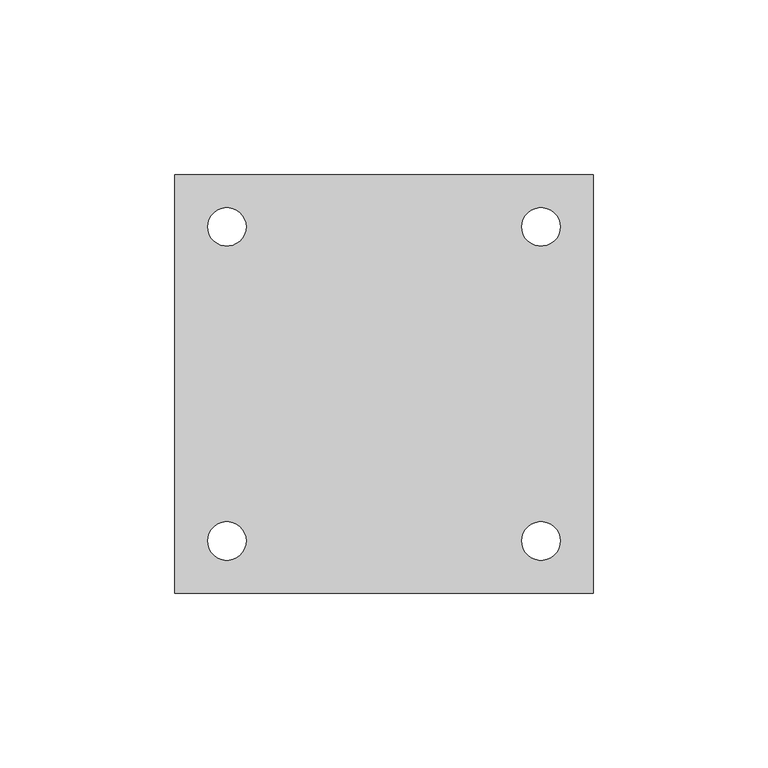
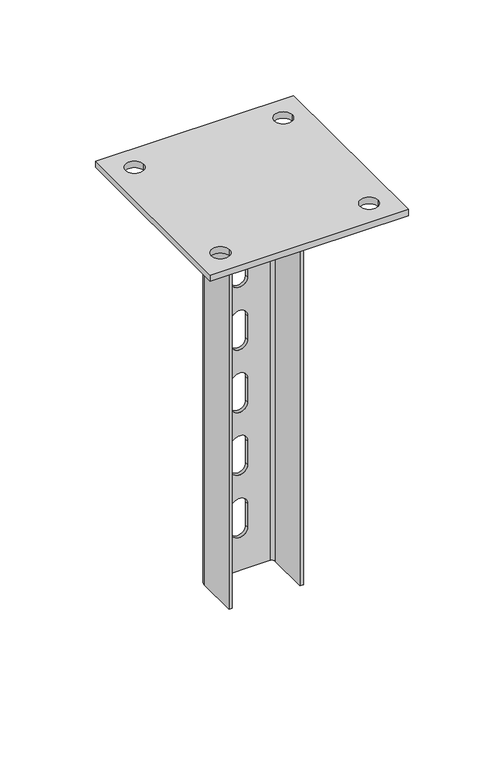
"""IFC4 building model written with IfcOpenShell, lengths in millimetres: proxy geometry, КМ Профиль_Стойка потолочная усиленная PSTU : PSTU250."""

from ifc_helpers import new_model, si_unit, point, frame, frame_2d, origin, place, context, project, spatial, polyline, circle_curve, trimmed, segment, composite_curve, outline, extrude, source, transform, mapped, element, save
from ifc_brep_helpers import plane_surface, cylinder_surface, revolved_surface, advanced_brep


def generic_models_40aa2584(model_context):
    return source(origin(), model_context, "Body", "SolidModel", [
        advanced_brep(
        [(22.5, -15.0, -4.0), (22.5, 11.0, -4.0), (18.5, 15.0, -4.0), (-18.5, 15.0, -4.0), (-22.5, 11.0, -4.0), (-22.5, -15.0, -4.0), (-20.5, -15.0, -4.0), (-20.5, 11.0, -4.0), (-18.5, 13.0, -4.0), (18.5, 13.0, -4.0), (20.5, 11.0, -4.0), (20.5, -15.0, -4.0), (22.5, 11.0, -254.0), (22.5, -15.0, -254.0), (20.5, -15.0, -254.0), (20.5, 11.0, -254.0), (18.5, 13.0, -254.0), (-18.5, 13.0, -254.0), (-20.5, 11.0, -254.0), (-20.5, -15.0, -254.0), (-22.5, -15.0, -254.0), (-22.5, 11.0, -254.0), (-18.5, 15.0, -254.0), (18.5, 15.0, -254.0), (-5.0, 15.0, -53.0), (-5.0, 15.0, -68.0), (5.0, 15.0, -68.0), (5.0, 15.0, -53.0), (-5.0, 15.0, -93.0), (-5.0, 15.0, -108.0), (5.0, 15.0, -108.0), (5.0, 15.0, -93.0), (-5.0, 15.0, -133.0), (-5.0, 15.0, -148.0), (5.0, 15.0, -148.0), (5.0, 15.0, -133.0), (-5.0, 15.0, -173.0), (-5.0, 15.0, -188.0), (5.0, 15.0, -188.0), (5.0, 15.0, -173.0), (-5.0, 15.0, -213.0), (-5.0, 15.0, -228.0), (5.0, 15.0, -228.0), (5.0, 15.0, -213.0), (-5.0, 15.0, -13.0), (-5.0, 15.0, -28.0), (5.0, 15.0, -28.0), (5.0, 15.0, -13.0), (-5.0, 13.0, -68.0), (-5.0, 13.0, -53.0), (5.0, 13.0, -53.0), (5.0, 13.0, -68.0), (-5.0, 13.0, -108.0), (-5.0, 13.0, -93.0), (5.0, 13.0, -93.0), (5.0, 13.0, -108.0), (-5.0, 13.0, -148.0), (-5.0, 13.0, -133.0), (5.0, 13.0, -133.0), (5.0, 13.0, -148.0), (-5.0, 13.0, -188.0), (-5.0, 13.0, -173.0), (5.0, 13.0, -173.0), (5.0, 13.0, -188.0), (-5.0, 13.0, -228.0), (-5.0, 13.0, -213.0), (5.0, 13.0, -213.0), (5.0, 13.0, -228.0), (-5.0, 13.0, -28.0), (-5.0, 13.0, -13.0), (5.0, 13.0, -13.0), (5.0, 13.0, -28.0)],
        [
            (0, 1),
            (1, 2, circle_curve(frame((18.5, 11.0, -4.0), z_axis=(0.0, 0.0, 1.0), x_axis=(1.0, 0.0, 0.0)), 4.0)),
            (2, 3),
            (3, 4, circle_curve(frame((-18.5, 11.0, -4.0), z_axis=(0.0, 0.0, 1.0), x_axis=(1.0, 0.0, 0.0)), 4.0)),
            (4, 5),
            (5, 6),
            (6, 7),
            (7, 8, circle_curve(frame((-18.5, 11.0, -4.0), z_axis=(0.0, 0.0, -1.0), x_axis=(1.0, 0.0, 0.0)), 2.0)),
            (8, 9),
            (9, 10, circle_curve(frame((18.5, 11.0, -4.0), z_axis=(0.0, 0.0, -1.0), x_axis=(1.0, 0.0, 0.0)), 2.0)),
            (10, 11),
            (11, 0),
            (12, 13),
            (13, 14),
            (14, 15),
            (15, 16, circle_curve(frame((18.5, 11.0, -254.0), z_axis=(0.0, 0.0, 1.0), x_axis=(1.0, 0.0, 0.0)), 2.0)),
            (16, 17),
            (17, 18, circle_curve(frame((-18.5, 11.0, -254.0), z_axis=(0.0, 0.0, 1.0), x_axis=(1.0, 0.0, 0.0)), 2.0)),
            (18, 19),
            (19, 20),
            (20, 21),
            (21, 22, circle_curve(frame((-18.5, 11.0, -254.0), z_axis=(0.0, 0.0, -1.0), x_axis=(1.0, 0.0, 0.0)), 4.0)),
            (22, 23),
            (23, 12, circle_curve(frame((18.5, 11.0, -254.0), z_axis=(0.0, 0.0, -1.0), x_axis=(1.0, 0.0, 0.0)), 4.0)),
            (0, 13),
            (12, 1),
            (23, 2),
            (22, 3),
            (24, 25),
            (25, 26, circle_curve(frame((0.0, 15.0, -68.0), z_axis=(0.0, -1.0, 0.0), x_axis=(0.0, 0.0, -1.0)), 5.0)),
            (26, 27),
            (27, 24, circle_curve(frame((0.0, 15.0, -53.0), z_axis=(0.0, -1.0, 0.0), x_axis=(0.0, 0.0, -1.0)), 5.0)),
            (28, 29),
            (29, 30, circle_curve(frame((0.0, 15.0, -108.0), z_axis=(0.0, -1.0, 0.0), x_axis=(0.0, 0.0, -1.0)), 5.0)),
            (30, 31),
            (31, 28, circle_curve(frame((0.0, 15.0, -93.0), z_axis=(0.0, -1.0, 0.0), x_axis=(0.0, 0.0, -1.0)), 5.0)),
            (32, 33),
            (33, 34, circle_curve(frame((0.0, 15.0, -148.0), z_axis=(0.0, -1.0, 0.0), x_axis=(0.0, 0.0, -1.0)), 5.0)),
            (34, 35),
            (35, 32, circle_curve(frame((0.0, 15.0, -133.0), z_axis=(0.0, -1.0, 0.0), x_axis=(0.0, 0.0, -1.0)), 5.0)),
            (36, 37),
            (37, 38, circle_curve(frame((0.0, 15.0, -188.0), z_axis=(0.0, -1.0, 0.0), x_axis=(0.0, 0.0, -1.0)), 5.0)),
            (38, 39),
            (39, 36, circle_curve(frame((0.0, 15.0, -173.0), z_axis=(0.0, -1.0, 0.0), x_axis=(0.0, 0.0, -1.0)), 5.0)),
            (40, 41),
            (41, 42, circle_curve(frame((0.0, 15.0, -228.0), z_axis=(0.0, -1.0, 0.0), x_axis=(0.0, 0.0, -1.0)), 5.0)),
            (42, 43),
            (43, 40, circle_curve(frame((0.0, 15.0, -213.0), z_axis=(0.0, -1.0, 0.0), x_axis=(0.0, 0.0, -1.0)), 5.0)),
            (44, 45),
            (45, 46, circle_curve(frame((0.0, 15.0, -28.0), z_axis=(0.0, -1.0, 0.0), x_axis=(0.0, 0.0, -1.0)), 5.0)),
            (46, 47),
            (47, 44, circle_curve(frame((0.0, 15.0, -13.0), z_axis=(0.0, -1.0, 0.0), x_axis=(0.0, 0.0, -1.0)), 5.0)),
            (21, 4),
            (20, 5),
            (19, 6),
            (18, 7),
            (17, 8),
            (16, 9),
            (48, 49),
            (49, 50, circle_curve(frame((0.0, 13.0, -53.0), z_axis=(0.0, 1.0, 0.0), x_axis=(0.0, 0.0, -1.0)), 5.0)),
            (50, 51),
            (51, 48, circle_curve(frame((0.0, 13.0, -68.0), z_axis=(0.0, 1.0, 0.0), x_axis=(0.0, 0.0, -1.0)), 5.0)),
            (52, 53),
            (53, 54, circle_curve(frame((0.0, 13.0, -93.0), z_axis=(0.0, 1.0, 0.0), x_axis=(0.0, 0.0, -1.0)), 5.0)),
            (54, 55),
            (55, 52, circle_curve(frame((0.0, 13.0, -108.0), z_axis=(0.0, 1.0, 0.0), x_axis=(0.0, 0.0, -1.0)), 5.0)),
            (56, 57),
            (57, 58, circle_curve(frame((0.0, 13.0, -133.0), z_axis=(0.0, 1.0, 0.0), x_axis=(0.0, 0.0, -1.0)), 5.0)),
            (58, 59),
            (59, 56, circle_curve(frame((0.0, 13.0, -148.0), z_axis=(0.0, 1.0, 0.0), x_axis=(0.0, 0.0, -1.0)), 5.0)),
            (60, 61),
            (61, 62, circle_curve(frame((0.0, 13.0, -173.0), z_axis=(0.0, 1.0, 0.0), x_axis=(0.0, 0.0, -1.0)), 5.0)),
            (62, 63),
            (63, 60, circle_curve(frame((0.0, 13.0, -188.0), z_axis=(0.0, 1.0, 0.0), x_axis=(0.0, 0.0, -1.0)), 5.0)),
            (64, 65),
            (65, 66, circle_curve(frame((0.0, 13.0, -213.0), z_axis=(0.0, 1.0, 0.0), x_axis=(0.0, 0.0, -1.0)), 5.0)),
            (66, 67),
            (67, 64, circle_curve(frame((0.0, 13.0, -228.0), z_axis=(0.0, 1.0, 0.0), x_axis=(0.0, 0.0, -1.0)), 5.0)),
            (68, 69),
            (69, 70, circle_curve(frame((0.0, 13.0, -13.0), z_axis=(0.0, 1.0, 0.0), x_axis=(0.0, 0.0, -1.0)), 5.0)),
            (70, 71),
            (71, 68, circle_curve(frame((0.0, 13.0, -28.0), z_axis=(0.0, 1.0, 0.0), x_axis=(0.0, 0.0, -1.0)), 5.0)),
            (15, 10),
            (14, 11),
            (24, 49),
            (48, 25),
            (27, 50),
            (26, 51),
            (28, 53),
            (52, 29),
            (31, 54),
            (30, 55),
            (32, 57),
            (56, 33),
            (35, 58),
            (34, 59),
            (36, 61),
            (60, 37),
            (39, 62),
            (38, 63),
            (40, 65),
            (64, 41),
            (43, 66),
            (42, 67),
            (44, 69),
            (68, 45),
            (47, 70),
            (46, 71),
        ],
        [
            plane_surface(frame((22.5, 11.0, -4.0), z_axis=(0.0, 0.0, 1.0), x_axis=(0.0, 1.0, 0.0))),
            plane_surface(frame((22.5, 11.0, -254.0), z_axis=(0.0, 0.0, -1.0), x_axis=(0.0, -1.0, 0.0))),
            plane_surface(frame((22.5, -15.0, -4.0), z_axis=(1.0, 0.0, 0.0), x_axis=(0.0, 0.0, -1.0))),
            cylinder_surface(frame((18.5, 11.0, -254.0), z_axis=(0.0, 0.0, 1.0), x_axis=(1.0, 0.0, 0.0)), 4.0),
            plane_surface(frame((18.5, 15.0, -4.0), z_axis=(0.0, 1.0, 0.0), x_axis=(0.0, 0.0, -1.0))),
            cylinder_surface(frame((-18.5, 11.0, -254.0), z_axis=(0.0, 0.0, 1.0), x_axis=(1.0, 0.0, 0.0)), 4.0),
            plane_surface(frame((-22.5, 11.0, -4.0), z_axis=(-1.0, 0.0, 0.0), x_axis=(0.0, 0.0, -1.0))),
            plane_surface(frame((-22.5, -15.0, -4.0), z_axis=(0.0, -1.0, 0.0), x_axis=(0.0, 0.0, -1.0))),
            plane_surface(frame((-20.5, -15.0, -4.0), z_axis=(1.0, 0.0, 0.0), x_axis=(0.0, 0.0, -1.0))),
            revolved_surface(polyline([(-16.5, 11.0, -254.0), (-16.5, 11.0, -4.0)]), (-18.5, 11.0, -254.0), (0.0, 0.0, -1.0)),
            plane_surface(frame((-18.5, 13.0, -4.0), z_axis=(0.0, -1.0, 0.0), x_axis=(0.0, 0.0, -1.0))),
            revolved_surface(polyline([(20.5, 11.0, -254.0), (20.5, 11.0, -4.0)]), (18.5, 11.0, -254.0), (0.0, 0.0, -1.0)),
            plane_surface(frame((20.5, 11.0, -4.0), z_axis=(-1.0, 0.0, 0.0), x_axis=(0.0, 0.0, -1.0))),
            plane_surface(frame((20.5, -15.0, -4.0), z_axis=(0.0, -1.0, 0.0), x_axis=(0.0, 0.0, -1.0))),
            plane_surface(frame((-5.0, 15.0, -68.0), z_axis=(1.0, 0.0, 0.0), x_axis=(0.0, -1.0, 0.0))),
            revolved_surface(polyline([(0.0, 15.0, -58.0), (0.0, 13.0, -58.0)]), (0.0, 13.0, -53.0), (0.0, 1.0, 0.0)),
            plane_surface(frame((5.0, 15.0, -53.0), z_axis=(-1.0, 0.0, 0.0), x_axis=(0.0, -1.0, 0.0))),
            revolved_surface(polyline([(0.0, 15.0, -73.0), (0.0, 13.0, -73.0)]), (0.0, 13.0, -68.0), (0.0, 1.0, 0.0)),
            plane_surface(frame((-5.0, 15.0, -108.0), z_axis=(1.0, 0.0, 0.0), x_axis=(0.0, -1.0, 0.0))),
            revolved_surface(polyline([(0.0, 15.0, -98.0), (0.0, 13.0, -98.0)]), (0.0, 13.0, -93.0), (0.0, 1.0, 0.0)),
            plane_surface(frame((5.0, 15.0, -93.0), z_axis=(-1.0, 0.0, 0.0), x_axis=(0.0, -1.0, 0.0))),
            revolved_surface(polyline([(0.0, 15.0, -113.0), (0.0, 13.0, -113.0)]), (0.0, 13.0, -108.0), (0.0, 1.0, 0.0)),
            plane_surface(frame((-5.0, 15.0, -148.0), z_axis=(1.0, 0.0, 0.0), x_axis=(0.0, -1.0, 0.0))),
            revolved_surface(polyline([(0.0, 15.0, -138.0), (0.0, 13.0, -138.0)]), (0.0, 13.0, -133.0), (0.0, 1.0, 0.0)),
            plane_surface(frame((5.0, 15.0, -133.0), z_axis=(-1.0, 0.0, 0.0), x_axis=(0.0, -1.0, 0.0))),
            revolved_surface(polyline([(0.0, 15.0, -153.0), (0.0, 13.0, -153.0)]), (0.0, 13.0, -148.0), (0.0, 1.0, 0.0)),
            plane_surface(frame((-5.0, 15.0, -188.0), z_axis=(1.0, 0.0, 0.0), x_axis=(0.0, -1.0, 0.0))),
            revolved_surface(polyline([(0.0, 15.0, -178.0), (0.0, 13.0, -178.0)]), (0.0, 13.0, -173.0), (0.0, 1.0, 0.0)),
            plane_surface(frame((5.0, 15.0, -173.0), z_axis=(-1.0, 0.0, 0.0), x_axis=(0.0, -1.0, 0.0))),
            revolved_surface(polyline([(0.0, 15.0, -193.0), (0.0, 13.0, -193.0)]), (0.0, 13.0, -188.0), (0.0, 1.0, 0.0)),
            plane_surface(frame((-5.0, 15.0, -228.0), z_axis=(1.0, 0.0, 0.0), x_axis=(0.0, -1.0, 0.0))),
            revolved_surface(polyline([(0.0, 15.0, -218.0), (0.0, 13.0, -218.0)]), (0.0, 13.0, -213.0), (0.0, 1.0, 0.0)),
            plane_surface(frame((5.0, 15.0, -213.0), z_axis=(-1.0, 0.0, 0.0), x_axis=(0.0, -1.0, 0.0))),
            revolved_surface(polyline([(0.0, 15.0, -233.0), (0.0, 13.0, -233.0)]), (0.0, 13.0, -228.0), (0.0, 1.0, 0.0)),
            plane_surface(frame((-5.0, 15.0, -28.0), z_axis=(1.0, 0.0, 0.0), x_axis=(0.0, -1.0, 0.0))),
            revolved_surface(polyline([(0.0, 15.0, -18.0), (0.0, 13.0, -18.0)]), (0.0, 13.0, -13.0), (0.0, 1.0, 0.0)),
            plane_surface(frame((5.0, 15.0, -13.0), z_axis=(-1.0, 0.0, 0.0), x_axis=(0.0, -1.0, 0.0))),
            revolved_surface(polyline([(0.0, 15.0, -33.0), (0.0, 13.0, -33.0)]), (0.0, 13.0, -28.0), (0.0, 1.0, 0.0)),
        ],
        [
            (0, [[1, 2, 3, 4, 5, 6, 7, 8, 9, 10, 11, 12]]),
            (1, [[13, 14, 15, 16, 17, 18, 19, 20, 21, 22, 23, 24]]),
            (2, [[-1, 25, -13, 26]]),
            (3, [[-2, -26, -24, 27]]),
            (4, [[-3, -27, -23, 28], [29, 30, 31, 32], [33, 34, 35, 36], [37, 38, 39, 40], [41, 42, 43, 44], [45, 46, 47, 48], [49, 50, 51, 52]]),
            (5, [[-4, -28, -22, 53]]),
            (6, [[-5, -53, -21, 54]]),
            (7, [[-6, -54, -20, 55]]),
            (8, [[-7, -55, -19, 56]]),
            (9, [[-8, -56, -18, 57]]),
            (10, [[-9, -57, -17, 58], [59, 60, 61, 62], [63, 64, 65, 66], [67, 68, 69, 70], [71, 72, 73, 74], [75, 76, 77, 78], [79, 80, 81, 82]]),
            (11, [[-10, -58, -16, 83]]),
            (12, [[-11, -83, -15, 84]]),
            (13, [[-12, -84, -14, -25]]),
            (14, [[85, -59, 86, -29]]),
            (15, [[-85, -32, 87, -60]]),
            (16, [[-87, -31, 88, -61]]),
            (17, [[-86, -62, -88, -30]]),
            (18, [[89, -63, 90, -33]]),
            (19, [[-89, -36, 91, -64]]),
            (20, [[-91, -35, 92, -65]]),
            (21, [[-90, -66, -92, -34]]),
            (22, [[93, -67, 94, -37]]),
            (23, [[-93, -40, 95, -68]]),
            (24, [[-95, -39, 96, -69]]),
            (25, [[-94, -70, -96, -38]]),
            (26, [[97, -71, 98, -41]]),
            (27, [[-97, -44, 99, -72]]),
            (28, [[-99, -43, 100, -73]]),
            (29, [[-98, -74, -100, -42]]),
            (30, [[101, -75, 102, -45]]),
            (31, [[-101, -48, 103, -76]]),
            (32, [[-103, -47, 104, -77]]),
            (33, [[-102, -78, -104, -46]]),
            (34, [[105, -79, 106, -49]]),
            (35, [[-105, -52, 107, -80]]),
            (36, [[-107, -51, 108, -81]]),
            (37, [[-106, -82, -108, -50]]),
        ],
    ),
        extrude(outline(polyline([(-60.0, 60.0), (60.0, 60.0), (60.0, -60.0), (-60.0, -60.0), (-60.0, 60.0)]), holes=[composite_curve([segment(trimmed(circle_curve(frame_2d((-45.0, 45.0)), 5.5), [point((-50.5, 45.0))], [point((-39.5, 45.0))], True, "CARTESIAN"), True, "CONTINUOUS"), segment(trimmed(circle_curve(frame_2d((-45.0, 45.0)), 5.5), [point((-39.5, 45.0))], [point((-50.5, 45.0))], True, "CARTESIAN"), True, "CONTINUOUS")], self_intersect=False), composite_curve([segment(trimmed(circle_curve(frame_2d((45.0, 45.0)), 5.5), [point((39.5, 45.0))], [point((50.5, 45.0))], True, "CARTESIAN"), True, "CONTINUOUS"), segment(trimmed(circle_curve(frame_2d((45.0, 45.0)), 5.5), [point((50.5, 45.0))], [point((39.5, 45.0))], True, "CARTESIAN"), True, "CONTINUOUS")], self_intersect=False), composite_curve([segment(trimmed(circle_curve(frame_2d((45.0, -45.0)), 5.5), [point((39.5, -45.0))], [point((50.5, -45.0))], True, "CARTESIAN"), True, "CONTINUOUS"), segment(trimmed(circle_curve(frame_2d((45.0, -45.0)), 5.5), [point((50.5, -45.0))], [point((39.5, -45.0))], True, "CARTESIAN"), True, "CONTINUOUS")], self_intersect=False), composite_curve([segment(trimmed(circle_curve(frame_2d((-45.0, -45.0)), 5.5), [point((-50.5, -45.0))], [point((-39.5, -45.0))], True, "CARTESIAN"), True, "CONTINUOUS"), segment(trimmed(circle_curve(frame_2d((-45.0, -45.0)), 5.5), [point((-39.5, -45.0))], [point((-50.5, -45.0))], True, "CARTESIAN"), True, "CONTINUOUS")], self_intersect=False)]), frame((0.0, 0.0, -4.0), z_axis=(0.0, 0.0, 1.0), x_axis=(1.0, 0.0, 0.0)), (0.0, 0.0, 1.0), 4.0),
    ])


if __name__ == "__main__":
    model = new_model("IFC4")
    model_context = context("Model", 3, world=origin())
    ifc_project = project(units=[si_unit("LENGTHUNIT", "METRE", prefix="MILLI")], contexts=[model_context])
    site = spatial("IfcSite", under=ifc_project)
    building = spatial("IfcBuilding", under=site)
    placement = place(None, origin())
    generic_models_shape = generic_models_40aa2584(model_context)
    element("IfcBuildingElementProxy", 1, Name="КМ Профиль_Стойка потолочная усиленная PSTU : PSTU250", ObjectType="КМ Профиль_Стойка потолочная усиленная PSTU : PSTU250", at=placement, inside=building, context=model_context, shape_type="MappedRepresentation", body=[
        mapped(generic_models_shape, transform((0.0, 0.0, 0.0), x_axis=(1.0, 0.0, 0.0), y_axis=(0.0, 1.0, 0.0), z_axis=(0.0, 0.0, 1.0))),
    ])
    save(model, "model.ifc")
